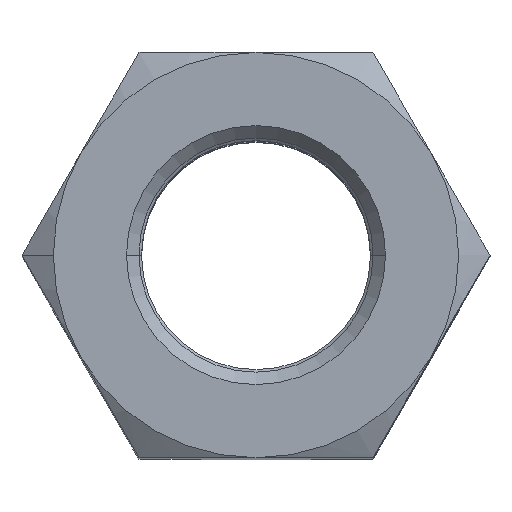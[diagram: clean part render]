
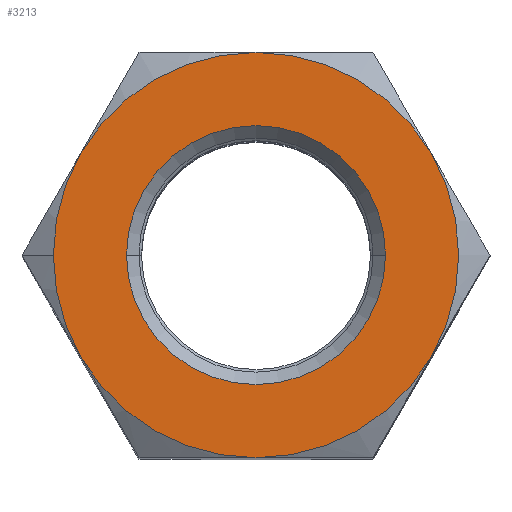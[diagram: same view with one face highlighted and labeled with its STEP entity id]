
A CAD part, top view. The second image highlights one B-rep face of the part: STEP entity #3213.
In plain terms, the highlighted planar face has unit normal (0, 0, 1).
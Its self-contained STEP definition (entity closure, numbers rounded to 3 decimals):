
#231 = CIRCLE ( 'NONE', #10767, 13.5 ) ;
#310 = FACE_BOUND ( 'NONE', #7149, .T. ) ;
#591 = CIRCLE ( 'NONE', #7564, 8.625 ) ;
#806 = AXIS2_PLACEMENT_3D ( 'NONE', #9038, #10667, #9141 ) ;
#1198 = CARTESIAN_POINT ( 'NONE',  ( -11.691, -6.75, 34. ) ) ;
#1307 = CIRCLE ( 'NONE', #14132, 8.625 ) ;
#1566 = VERTEX_POINT ( 'NONE', #17371 ) ;
#1846 = CIRCLE ( 'NONE', #806, 13.5 ) ;
#2239 = ORIENTED_EDGE ( 'NONE', *, *, #15850, .T. ) ;
#2267 = ORIENTED_EDGE ( 'NONE', *, *, #4355, .T. ) ;
#2761 = AXIS2_PLACEMENT_3D ( 'NONE', #4820, #14836, #6248 ) ;
#2901 = ORIENTED_EDGE ( 'NONE', *, *, #6668, .T. ) ;
#2949 = ORIENTED_EDGE ( 'NONE', *, *, #11058, .F. ) ;
#3004 = EDGE_CURVE ( 'NONE', #1566, #5664, #1846, .T. ) ;
#3152 = ORIENTED_EDGE ( 'NONE', *, *, #12064, .T. ) ;
#3213 = ADVANCED_FACE ( 'NONE', ( #310, #8859 ), #4145, .F. ) ;
#3554 = CARTESIAN_POINT ( 'NONE',  ( -11.691, 6.75, 34. ) ) ;
#3683 = EDGE_CURVE ( 'NONE', #7731, #13939, #1307, .T. ) ;
#3851 = ORIENTED_EDGE ( 'NONE', *, *, #3004, .T. ) ;
#3854 = ORIENTED_EDGE ( 'NONE', *, *, #15497, .T. ) ;
#4093 = CARTESIAN_POINT ( 'NONE',  ( 0., 0., 34. ) ) ;
#4145 = PLANE ( 'NONE',  #10064 ) ;
#4178 = EDGE_LOOP ( 'NONE', ( #2239, #2901, #5650, #3854, #3851, #3152, #2949 ) ) ;
#4355 = EDGE_CURVE ( 'NONE', #13939, #7731, #591, .T. ) ;
#4744 = ORIENTED_EDGE ( 'NONE', *, *, #3683, .T. ) ;
#4820 = CARTESIAN_POINT ( 'NONE',  ( 0., 0., 34. ) ) ;
#5152 = CARTESIAN_POINT ( 'NONE',  ( 0., 0., 34. ) ) ;
#5513 = CARTESIAN_POINT ( 'NONE',  ( 0., 27., 34. ) ) ;
#5536 = DIRECTION ( 'NONE',  ( -1., 0., 0. ) ) ;
#5540 = EDGE_CURVE ( 'NONE', #10594, #13249, #18529, .T. ) ;
#5566 = DIRECTION ( 'NONE',  ( 0., 0., -1. ) ) ;
#5594 = DIRECTION ( 'NONE',  ( -1., 0., 0. ) ) ;
#5650 = ORIENTED_EDGE ( 'NONE', *, *, #5540, .T. ) ;
#5664 = VERTEX_POINT ( 'NONE', #10680 ) ;
#6248 = DIRECTION ( 'NONE',  ( -1., 0., 0. ) ) ;
#6590 = DIRECTION ( 'NONE',  ( -1., 0., 0. ) ) ;
#6595 = DIRECTION ( 'NONE',  ( 0., 0., 1. ) ) ;
#6668 = EDGE_CURVE ( 'NONE', #12286, #10594, #16540, .T. ) ;
#7105 = CARTESIAN_POINT ( 'NONE',  ( -8.625, 0., 34. ) ) ;
#7149 = EDGE_LOOP ( 'NONE', ( #4744, #2267 ) ) ;
#7548 = CIRCLE ( 'NONE', #13412, 13.5 ) ;
#7564 = AXIS2_PLACEMENT_3D ( 'NONE', #15957, #15940, #15888 ) ;
#7731 = VERTEX_POINT ( 'NONE', #14574 ) ;
#8133 = CARTESIAN_POINT ( 'NONE',  ( 0., 0., 34. ) ) ;
#8809 = CARTESIAN_POINT ( 'NONE',  ( 0., 0., 34. ) ) ;
#8859 = FACE_OUTER_BOUND ( 'NONE', #4178, .T. ) ;
#8868 = DIRECTION ( 'NONE',  ( 0., 0., -1. ) ) ;
#8935 = DIRECTION ( 'NONE',  ( -1., 0., 0. ) ) ;
#8951 = AXIS2_PLACEMENT_3D ( 'NONE', #15831, #15769, #15713 ) ;
#9038 = CARTESIAN_POINT ( 'NONE',  ( 0., 0., 34. ) ) ;
#9141 = DIRECTION ( 'NONE',  ( -1., 0., 0. ) ) ;
#9590 = DIRECTION ( 'NONE',  ( -1., 0., 0. ) ) ;
#10064 = AXIS2_PLACEMENT_3D ( 'NONE', #5513, #5566, #5594 ) ;
#10594 = VERTEX_POINT ( 'NONE', #1198 ) ;
#10667 = DIRECTION ( 'NONE',  ( 0., 0., 1. ) ) ;
#10680 = CARTESIAN_POINT ( 'NONE',  ( 11.691, 6.75, 34. ) ) ;
#10767 = AXIS2_PLACEMENT_3D ( 'NONE', #4093, #14087, #5536 ) ;
#11058 = EDGE_CURVE ( 'NONE', #16605, #15202, #231, .T. ) ;
#11165 = CIRCLE ( 'NONE', #15856, 13.5 ) ;
#12064 = EDGE_CURVE ( 'NONE', #5664, #15202, #11165, .T. ) ;
#12286 = VERTEX_POINT ( 'NONE', #13842 ) ;
#13249 = VERTEX_POINT ( 'NONE', #17158 ) ;
#13412 = AXIS2_PLACEMENT_3D ( 'NONE', #5152, #15166, #6590 ) ;
#13842 = CARTESIAN_POINT ( 'NONE',  ( -13.5, 0., 34. ) ) ;
#13939 = VERTEX_POINT ( 'NONE', #7105 ) ;
#14087 = DIRECTION ( 'NONE',  ( 0., 0., -1. ) ) ;
#14132 = AXIS2_PLACEMENT_3D ( 'NONE', #8809, #8868, #8935 ) ;
#14574 = CARTESIAN_POINT ( 'NONE',  ( 8.625, 0., 34. ) ) ;
#14836 = DIRECTION ( 'NONE',  ( 0., 0., 1. ) ) ;
#15166 = DIRECTION ( 'NONE',  ( 0., 0., 1. ) ) ;
#15172 = CARTESIAN_POINT ( 'NONE',  ( 0., 0., 34. ) ) ;
#15202 = VERTEX_POINT ( 'NONE', #17136 ) ;
#15497 = EDGE_CURVE ( 'NONE', #13249, #1566, #7548, .T. ) ;
#15713 = DIRECTION ( 'NONE',  ( -1., 0., 0. ) ) ;
#15769 = DIRECTION ( 'NONE',  ( 0., 0., 1. ) ) ;
#15831 = CARTESIAN_POINT ( 'NONE',  ( 0., 0., 34. ) ) ;
#15850 = EDGE_CURVE ( 'NONE', #16605, #12286, #16960, .T. ) ;
#15856 = AXIS2_PLACEMENT_3D ( 'NONE', #8133, #18203, #9590 ) ;
#15888 = DIRECTION ( 'NONE',  ( -1., 0., 0. ) ) ;
#15940 = DIRECTION ( 'NONE',  ( 0., 0., -1. ) ) ;
#15957 = CARTESIAN_POINT ( 'NONE',  ( 0., 0., 34. ) ) ;
#16045 = AXIS2_PLACEMENT_3D ( 'NONE', #15172, #6595, #16635 ) ;
#16540 = CIRCLE ( 'NONE', #16045, 13.5 ) ;
#16605 = VERTEX_POINT ( 'NONE', #3554 ) ;
#16635 = DIRECTION ( 'NONE',  ( -1., 0., 0. ) ) ;
#16960 = CIRCLE ( 'NONE', #2761, 13.5 ) ;
#17136 = CARTESIAN_POINT ( 'NONE',  ( 0., 13.5, 34. ) ) ;
#17158 = CARTESIAN_POINT ( 'NONE',  ( 0., -13.5, 34. ) ) ;
#17371 = CARTESIAN_POINT ( 'NONE',  ( 11.691, -6.75, 34. ) ) ;
#18203 = DIRECTION ( 'NONE',  ( 0., 0., 1. ) ) ;
#18529 = CIRCLE ( 'NONE', #8951, 13.5 ) ;
